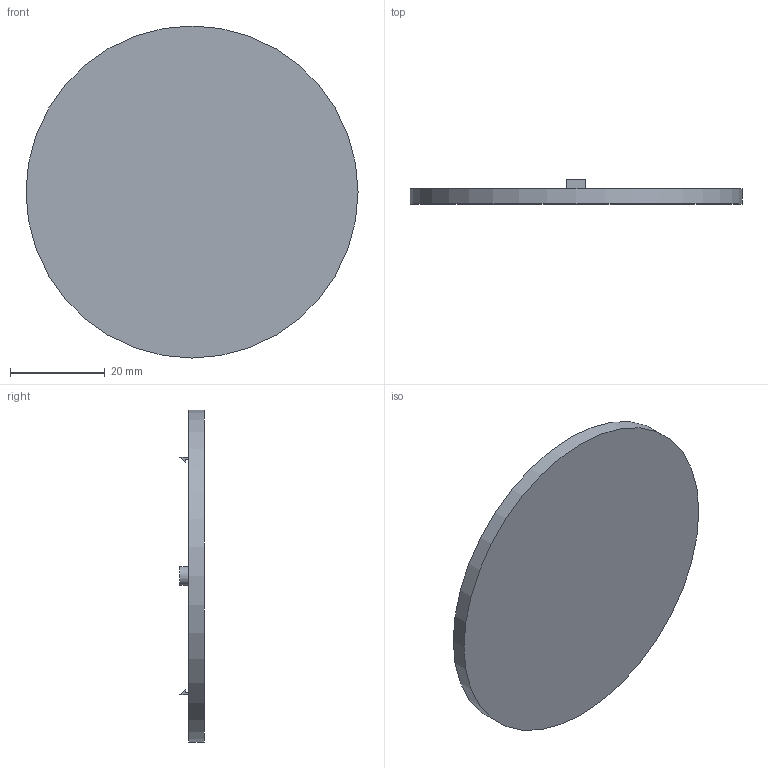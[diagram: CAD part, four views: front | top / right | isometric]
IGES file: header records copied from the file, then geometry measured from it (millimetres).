
Start section: Data from Parasolid IGES Translator 15.0.47, Copyright(c) 2006 Siemens P LM Software. All Rights Reserved.
Global section: file name: 9086698.igs; native system:  By UGS Corp.; preprocessor: XPlus GENERIC/IGES 3.0; author: Noname; organization: Noname; date: 20140122.180424; units: millimetre
Bounding box: 70 x 5.1 x 70 mm (x, y, z)
Surface area: 8847.3 mm2 (no closed solid volume)
Topology: 0 solids, 0 shells, 19 faces, 78 edges, 74 vertices
Faces by surface type: extrusion 16, revolution 3
